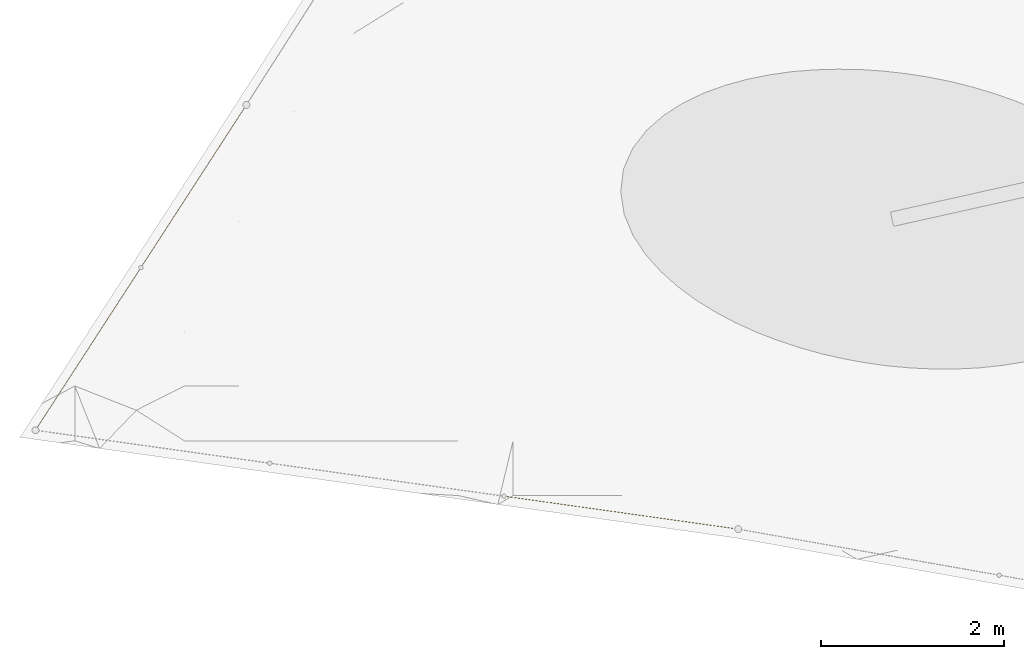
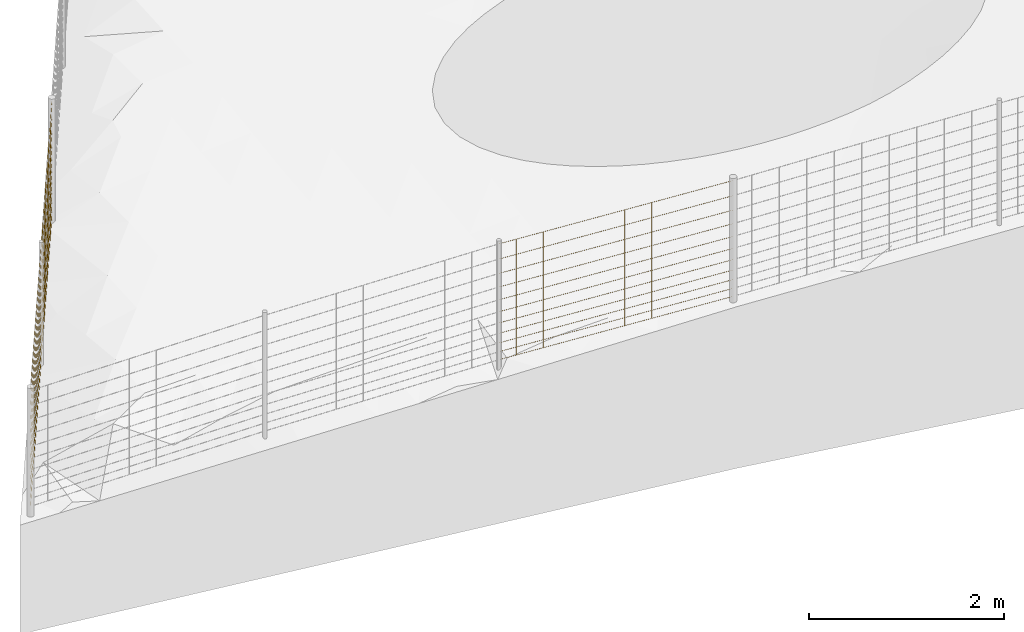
# Not in any storey, part 25 of 72: 3 railings.
"""IFC4 model written with IfcOpenShell, lengths in metres."""

from ifc_helpers import new_model, si_unit, direction, frame, origin_with_axes, place, context, subcontext, project, spatial, polygons, material, element, save


model = new_model("IFC4")

# Units and contexts
model_context = context("Model", 3, precision=1e-05, world=origin_with_axes(), true_north=direction((0.0, 1.0)))
body_context = subcontext(model_context, "Body", "Model", "MODEL_VIEW")
ifc_project = project(units=[si_unit("VOLUMEUNIT", "CUBIC_METRE"), si_unit("LENGTHUNIT", "METRE"), si_unit("AREAUNIT", "SQUARE_METRE")], contexts=[model_context])

# Site
site_placement = place(None, origin_with_axes())
site = spatial("IfcSite", under=ifc_project, at=site_placement, Name="Lares · Rua das Mercês · artigo 4771")

# Railings
ifc_material = material(Name="Aço galvanizado / Stahl verzinkt", Category="steel")
railing_1_placement = place(site_placement, frame((0.0, 0.0, 0.0), z_axis=(0.0, 0.0, 1.0), x_axis=(1.0, -1.03767253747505e-17, 0.0)))
element("IfcRailing", 1, at=railing_1_placement, inside=site, material=ifc_material, Name="Vedação · rede ovelheira 1.038", ObjectType="SHEEP_WIRE_FENCE", PredefinedType="USERDEFINED", context=body_context, shape_type="Tessellation", body=[
    polygons([(-4.2405248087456, 3.87456607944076, 11.0886268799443), (-4.24066841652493, 3.87307150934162, 11.0871283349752), (-4.24094284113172, 3.87159534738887, 11.0886268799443), (-4.24079923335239, 3.87308991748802, 11.0901254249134), (-6.80593960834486, 4.23556345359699, 10.9744345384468), (-6.80608321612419, 4.23406888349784, 10.9729359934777), (-6.80635764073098, 4.23259272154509, 10.9744345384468), (-6.80621403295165, 4.23408729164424, 10.9759330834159), (-4.2405248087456, 3.87456607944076, 11.1886268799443), (-4.24066841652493, 3.87307150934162, 11.1871283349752), (-4.24094284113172, 3.87159534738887, 11.1886268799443), (-4.24079923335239, 3.87308991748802, 11.1901254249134), (-6.80593960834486, 4.23556345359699, 11.0744345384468), (-6.80608321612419, 4.23406888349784, 11.0729359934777), (-6.80635764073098, 4.23259272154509, 11.0744345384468), (-6.80621403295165, 4.23408729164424, 11.0759330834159), (-4.2405248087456, 3.87456607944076, 11.2986268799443), (-4.24066841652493, 3.87307150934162, 11.2971283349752), (-4.24094284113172, 3.87159534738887, 11.2986268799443), (-4.24079923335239, 3.87308991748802, 11.3001254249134), (-6.80593960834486, 4.23556345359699, 11.1844345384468), (-6.80608321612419, 4.23406888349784, 11.1829359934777), (-6.80635764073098, 4.23259272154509, 11.1844345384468), (-6.80621403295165, 4.23408729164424, 11.1859330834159), (-4.2405248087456, 3.87456607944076, 11.4186268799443), (-4.24066841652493, 3.87307150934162, 11.4171283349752), (-4.24094284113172, 3.87159534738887, 11.4186268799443), (-4.24079923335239, 3.87308991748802, 11.4201254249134), (-6.80593960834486, 4.23556345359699, 11.3044345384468), (-6.80608321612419, 4.23406888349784, 11.3029359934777), (-6.80635764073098, 4.23259272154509, 11.3044345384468), (-6.80621403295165, 4.23408729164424, 11.3059330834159), (-4.2405248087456, 3.87456607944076, 11.5486268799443), (-4.24066841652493, 3.87307150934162, 11.5471283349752), (-4.24094284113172, 3.87159534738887, 11.5486268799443), (-4.24079923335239, 3.87308991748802, 11.5501254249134), (-6.80593960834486, 4.23556345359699, 11.4344345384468), (-6.80608321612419, 4.23406888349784, 11.4329359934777), (-6.80635764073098, 4.23259272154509, 11.4344345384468), (-6.80621403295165, 4.23408729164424, 11.4359330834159), (-4.2405248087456, 3.87456607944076, 11.6886268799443), (-4.24066841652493, 3.87307150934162, 11.6871283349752), (-4.24094284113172, 3.87159534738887, 11.6886268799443), (-4.24079923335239, 3.87308991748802, 11.6901254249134), (-6.80593960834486, 4.23556345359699, 11.5744345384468), (-6.80608321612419, 4.23406888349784, 11.5729359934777), (-6.80635764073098, 4.23259272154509, 11.5744345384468), (-6.80621403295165, 4.23408729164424, 11.5759330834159), (-4.2405248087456, 3.87456607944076, 11.8386268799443), (-4.24066841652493, 3.87307150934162, 11.8371283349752), (-4.24094284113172, 3.87159534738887, 11.8386268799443), (-4.24079923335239, 3.87308991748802, 11.8401254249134), (-6.80593960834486, 4.23556345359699, 11.7244345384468), (-6.80608321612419, 4.23406888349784, 11.7229359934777), (-6.80635764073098, 4.23259272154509, 11.7244345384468), (-6.80621403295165, 4.23408729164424, 11.7259330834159), (-4.2405248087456, 3.87456607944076, 11.9986268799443), (-4.24066841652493, 3.87307150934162, 11.9971283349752), (-4.24094284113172, 3.87159534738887, 11.9986268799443), (-4.24079923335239, 3.87308991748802, 12.0001254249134), (-6.80593960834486, 4.23556345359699, 11.8844345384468), (-6.80608321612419, 4.23406888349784, 11.8829359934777), (-6.80635764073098, 4.23259272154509, 11.8844345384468), (-6.80621403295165, 4.23408729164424, 11.8859330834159), (-4.2405248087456, 3.87456607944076, 12.1686268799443), (-4.24066841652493, 3.87307150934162, 12.1671283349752), (-4.24094284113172, 3.87159534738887, 12.1686268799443), (-4.24079923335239, 3.87308991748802, 12.1701254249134), (-6.80593960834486, 4.23556345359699, 12.0544345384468), (-6.80608321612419, 4.23406888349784, 12.0529359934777), (-6.80635764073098, 4.23259272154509, 12.0544345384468), (-6.80621403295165, 4.23408729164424, 12.0559330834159), (-4.2405248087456, 3.87456607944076, 12.3486268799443), (-4.24066841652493, 3.87307150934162, 12.3471283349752), (-4.24094284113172, 3.87159534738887, 12.3486268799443), (-4.24079923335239, 3.87308991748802, 12.3501254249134), (-6.80593960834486, 4.23556345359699, 12.2344345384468), (-6.80608321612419, 4.23406888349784, 12.2329359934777), (-6.80635764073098, 4.23259272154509, 12.2344345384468), (-6.80621403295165, 4.23408729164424, 12.2359330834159), (-4.2405248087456, 3.87456607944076, 12.5386268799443), (-4.24066841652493, 3.87307150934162, 12.5371283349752), (-4.24094284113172, 3.87159534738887, 12.5386268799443), (-4.24079923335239, 3.87308991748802, 12.5401254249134), (-6.80593960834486, 4.23556345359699, 12.4244345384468), (-6.80608321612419, 4.23406888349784, 12.4229359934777), (-6.80635764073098, 4.23259272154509, 12.4244345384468), (-6.80621403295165, 4.23408729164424, 12.4259330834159), (-4.53780703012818, 3.9163839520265, 11.0754034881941), (-4.53930703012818, 3.9148839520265, 11.0754034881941), (-4.53780703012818, 3.9133839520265, 11.0754034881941), (-4.53630703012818, 3.9148839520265, 11.0754034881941), (-4.53780703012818, 3.9163839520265, 12.5254034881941), (-4.53930703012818, 3.9148839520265, 12.5254034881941), (-4.53780703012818, 3.9133839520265, 12.5254034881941), (-4.53630703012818, 3.9148839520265, 12.5254034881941), (-4.8348802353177, 3.95818719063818, 11.062180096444), (-4.8363802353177, 3.95668719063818, 11.062180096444), (-4.8348802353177, 3.95518719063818, 11.062180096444), (-4.8333802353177, 3.95668719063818, 11.062180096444), (-4.8348802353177, 3.95818719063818, 12.512180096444), (-4.8363802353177, 3.95668719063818, 12.512180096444), (-4.8348802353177, 3.95518719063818, 12.512180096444), (-4.8333802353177, 3.95668719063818, 12.512180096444), (-5.13195344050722, 3.99999042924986, 11.0489567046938), (-5.13345344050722, 3.99849042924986, 11.0489567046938), (-5.13195344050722, 3.99699042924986, 11.0489567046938), (-5.13045344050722, 3.99849042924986, 11.0489567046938), (-5.13195344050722, 3.99999042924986, 12.4989567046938), (-5.13345344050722, 3.99849042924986, 12.4989567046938), (-5.13195344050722, 3.99699042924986, 12.4989567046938), (-5.13045344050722, 3.99849042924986, 12.4989567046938), (-5.42902664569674, 4.04179366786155, 11.0357333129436), (-5.43052664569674, 4.04029366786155, 11.0357333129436), (-5.42902664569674, 4.03879366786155, 11.0357333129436), (-5.42752664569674, 4.04029366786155, 11.0357333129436), (-5.42902664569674, 4.04179366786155, 12.4857333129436), (-5.43052664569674, 4.04029366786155, 12.4857333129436), (-5.42902664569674, 4.03879366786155, 12.4857333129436), (-5.42752664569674, 4.04029366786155, 12.4857333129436), (-5.72609985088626, 4.08359690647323, 11.0225099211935), (-5.72759985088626, 4.08209690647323, 11.0225099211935), (-5.72609985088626, 4.08059690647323, 11.0225099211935), (-5.72459985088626, 4.08209690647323, 11.0225099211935), (-5.72609985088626, 4.08359690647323, 12.4725099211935), (-5.72759985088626, 4.08209690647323, 12.4725099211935), (-5.72609985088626, 4.08059690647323, 12.4725099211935), (-5.72459985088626, 4.08209690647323, 12.4725099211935), (-6.02317305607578, 4.12540014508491, 11.0092865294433), (-6.02467305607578, 4.12390014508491, 11.0092865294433), (-6.02317305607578, 4.12240014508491, 11.0092865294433), (-6.02167305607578, 4.12390014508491, 11.0092865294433), (-6.02317305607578, 4.12540014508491, 12.4592865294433), (-6.02467305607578, 4.12390014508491, 12.4592865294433), (-6.02317305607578, 4.12240014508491, 12.4592865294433), (-6.02167305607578, 4.12390014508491, 12.4592865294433), (-6.3202462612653, 4.16720338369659, 10.9960631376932), (-6.3217462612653, 4.16570338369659, 10.9960631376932), (-6.3202462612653, 4.16420338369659, 10.9960631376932), (-6.3187462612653, 4.16570338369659, 10.9960631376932), (-6.3202462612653, 4.16720338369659, 12.4460631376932), (-6.3217462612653, 4.16570338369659, 12.4460631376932), (-6.3202462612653, 4.16420338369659, 12.4460631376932), (-6.3187462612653, 4.16570338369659, 12.4460631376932), (-6.61731946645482, 4.20900662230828, 10.982839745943), (-6.61881946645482, 4.20750662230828, 10.982839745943), (-6.61731946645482, 4.20600662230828, 10.982839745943), (-6.61581946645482, 4.20750662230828, 10.982839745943), (-6.61731946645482, 4.20900662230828, 12.432839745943), (-6.61881946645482, 4.20750662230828, 12.432839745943), (-6.61731946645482, 4.20600662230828, 12.432839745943), (-6.61581946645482, 4.20750662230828, 12.432839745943)], [[[4, 3, 2, 1]], [[5, 6, 7, 8]], [[1, 2, 6, 5]], [[2, 3, 7, 6]], [[3, 4, 8, 7]], [[4, 1, 5, 8]], [[12, 11, 10, 9]], [[13, 14, 15, 16]], [[9, 10, 14, 13]], [[10, 11, 15, 14]], [[11, 12, 16, 15]], [[12, 9, 13, 16]], [[20, 19, 18, 17]], [[21, 22, 23, 24]], [[17, 18, 22, 21]], [[18, 19, 23, 22]], [[19, 20, 24, 23]], [[20, 17, 21, 24]], [[28, 27, 26, 25]], [[29, 30, 31, 32]], [[25, 26, 30, 29]], [[26, 27, 31, 30]], [[27, 28, 32, 31]], [[28, 25, 29, 32]], [[36, 35, 34, 33]], [[37, 38, 39, 40]], [[33, 34, 38, 37]], [[34, 35, 39, 38]], [[35, 36, 40, 39]], [[36, 33, 37, 40]], [[44, 43, 42, 41]], [[45, 46, 47, 48]], [[41, 42, 46, 45]], [[42, 43, 47, 46]], [[43, 44, 48, 47]], [[44, 41, 45, 48]], [[52, 51, 50, 49]], [[53, 54, 55, 56]], [[49, 50, 54, 53]], [[50, 51, 55, 54]], [[51, 52, 56, 55]], [[52, 49, 53, 56]], [[60, 59, 58, 57]], [[61, 62, 63, 64]], [[57, 58, 62, 61]], [[58, 59, 63, 62]], [[59, 60, 64, 63]], [[60, 57, 61, 64]], [[68, 67, 66, 65]], [[69, 70, 71, 72]], [[65, 66, 70, 69]], [[66, 67, 71, 70]], [[67, 68, 72, 71]], [[68, 65, 69, 72]], [[76, 75, 74, 73]], [[77, 78, 79, 80]], [[73, 74, 78, 77]], [[74, 75, 79, 78]], [[75, 76, 80, 79]], [[76, 73, 77, 80]], [[84, 83, 82, 81]], [[85, 86, 87, 88]], [[81, 82, 86, 85]], [[82, 83, 87, 86]], [[83, 84, 88, 87]], [[84, 81, 85, 88]], [[92, 91, 90, 89]], [[93, 94, 95, 96]], [[89, 90, 94, 93]], [[90, 91, 95, 94]], [[91, 92, 96, 95]], [[92, 89, 93, 96]], [[100, 99, 98, 97]], [[101, 102, 103, 104]], [[97, 98, 102, 101]], [[98, 99, 103, 102]], [[99, 100, 104, 103]], [[100, 97, 101, 104]], [[108, 107, 106, 105]], [[109, 110, 111, 112]], [[105, 106, 110, 109]], [[106, 107, 111, 110]], [[107, 108, 112, 111]], [[108, 105, 109, 112]], [[116, 115, 114, 113]], [[117, 118, 119, 120]], [[113, 114, 118, 117]], [[114, 115, 119, 118]], [[115, 116, 120, 119]], [[116, 113, 117, 120]], [[124, 123, 122, 121]], [[125, 126, 127, 128]], [[121, 122, 126, 125]], [[122, 123, 127, 126]], [[123, 124, 128, 127]], [[124, 121, 125, 128]], [[132, 131, 130, 129]], [[133, 134, 135, 136]], [[129, 130, 134, 133]], [[130, 131, 135, 134]], [[131, 132, 136, 135]], [[132, 129, 133, 136]], [[140, 139, 138, 137]], [[141, 142, 143, 144]], [[137, 138, 142, 141]], [[138, 139, 143, 142]], [[139, 140, 144, 143]], [[140, 137, 141, 144]], [[148, 147, 146, 145]], [[149, 150, 151, 152]], [[145, 146, 150, 149]], [[146, 147, 151, 150]], [[147, 148, 152, 151]], [[148, 145, 149, 152]]]),
])
railing_2_placement = place(site_placement, frame((0.0, 0.0, 0.0), z_axis=(0.0, 0.0, 1.0), x_axis=(1.0, -1.03767253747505e-17, 0.0)))
element("IfcRailing", 2, at=railing_2_placement, inside=site, material=ifc_material, Name="Vedação · rede ovelheira 1.041", ObjectType="SHEEP_WIRE_FENCE", PredefinedType="USERDEFINED", context=body_context, shape_type="Tessellation", body=[
    polygons([(-11.9357196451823, 4.95525675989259, 10.4965606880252), (-11.9368512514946, 4.95626865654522, 10.4950789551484), (-11.9382368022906, 4.95688891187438, 10.4965606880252), (-11.9371051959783, 4.95587701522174, 10.498042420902), (-10.7807430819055, 6.73649864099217, 10.8309353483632), (-10.7818746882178, 6.73751053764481, 10.8294536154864), (-10.7832602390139, 6.73813079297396, 10.8309353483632), (-10.7821286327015, 6.73711889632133, 10.83241708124), (-11.9357196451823, 4.95525675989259, 10.5965606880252), (-11.9368512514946, 4.95626865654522, 10.5950789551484), (-11.9382368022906, 4.95688891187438, 10.5965606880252), (-11.9371051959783, 4.95587701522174, 10.598042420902), (-10.7807430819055, 6.73649864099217, 10.9309353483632), (-10.7818746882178, 6.73751053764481, 10.9294536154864), (-10.7832602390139, 6.73813079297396, 10.9309353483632), (-10.7821286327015, 6.73711889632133, 10.93241708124), (-11.9357196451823, 4.95525675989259, 10.7065606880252), (-11.9368512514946, 4.95626865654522, 10.7050789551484), (-11.9382368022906, 4.95688891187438, 10.7065606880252), (-11.9371051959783, 4.95587701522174, 10.708042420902), (-10.7807430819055, 6.73649864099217, 11.0409353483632), (-10.7818746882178, 6.73751053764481, 11.0394536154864), (-10.7832602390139, 6.73813079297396, 11.0409353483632), (-10.7821286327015, 6.73711889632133, 11.04241708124), (-11.9357196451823, 4.95525675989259, 10.8265606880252), (-11.9368512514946, 4.95626865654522, 10.8250789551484), (-11.9382368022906, 4.95688891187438, 10.8265606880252), (-11.9371051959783, 4.95587701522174, 10.828042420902), (-10.7807430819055, 6.73649864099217, 11.1609353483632), (-10.7818746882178, 6.73751053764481, 11.1594536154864), (-10.7832602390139, 6.73813079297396, 11.1609353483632), (-10.7821286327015, 6.73711889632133, 11.16241708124), (-11.9357196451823, 4.95525675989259, 10.9565606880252), (-11.9368512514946, 4.95626865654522, 10.9550789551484), (-11.9382368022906, 4.95688891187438, 10.9565606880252), (-11.9371051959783, 4.95587701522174, 10.958042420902), (-10.7807430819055, 6.73649864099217, 11.2909353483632), (-10.7818746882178, 6.73751053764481, 11.2894536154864), (-10.7832602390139, 6.73813079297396, 11.2909353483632), (-10.7821286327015, 6.73711889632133, 11.29241708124), (-11.9357196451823, 4.95525675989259, 11.0965606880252), (-11.9368512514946, 4.95626865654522, 11.0950789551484), (-11.9382368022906, 4.95688891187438, 11.0965606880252), (-11.9371051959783, 4.95587701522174, 11.098042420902), (-10.7807430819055, 6.73649864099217, 11.4309353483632), (-10.7818746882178, 6.73751053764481, 11.4294536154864), (-10.7832602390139, 6.73813079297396, 11.4309353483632), (-10.7821286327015, 6.73711889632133, 11.43241708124), (-11.9357196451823, 4.95525675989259, 11.2465606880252), (-11.9368512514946, 4.95626865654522, 11.2450789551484), (-11.9382368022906, 4.95688891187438, 11.2465606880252), (-11.9371051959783, 4.95587701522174, 11.248042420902), (-10.7807430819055, 6.73649864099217, 11.5809353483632), (-10.7818746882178, 6.73751053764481, 11.5794536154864), (-10.7832602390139, 6.73813079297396, 11.5809353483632), (-10.7821286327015, 6.73711889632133, 11.58241708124), (-11.9357196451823, 4.95525675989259, 11.4065606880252), (-11.9368512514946, 4.95626865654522, 11.4050789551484), (-11.9382368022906, 4.95688891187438, 11.4065606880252), (-11.9371051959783, 4.95587701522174, 11.408042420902), (-10.7807430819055, 6.73649864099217, 11.7409353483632), (-10.7818746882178, 6.73751053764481, 11.7394536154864), (-10.7832602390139, 6.73813079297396, 11.7409353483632), (-10.7821286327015, 6.73711889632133, 11.74241708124), (-11.9357196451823, 4.95525675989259, 11.5765606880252), (-11.9368512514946, 4.95626865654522, 11.5750789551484), (-11.9382368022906, 4.95688891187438, 11.5765606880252), (-11.9371051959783, 4.95587701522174, 11.578042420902), (-10.7807430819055, 6.73649864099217, 11.9109353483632), (-10.7818746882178, 6.73751053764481, 11.9094536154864), (-10.7832602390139, 6.73813079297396, 11.9109353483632), (-10.7821286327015, 6.73711889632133, 11.91241708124), (-11.9357196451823, 4.95525675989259, 11.7565606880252), (-11.9368512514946, 4.95626865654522, 11.7550789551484), (-11.9382368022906, 4.95688891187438, 11.7565606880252), (-11.9371051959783, 4.95587701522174, 11.758042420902), (-10.7807430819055, 6.73649864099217, 12.0909353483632), (-10.7818746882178, 6.73751053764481, 12.0894536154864), (-10.7832602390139, 6.73813079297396, 12.0909353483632), (-10.7821286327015, 6.73711889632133, 12.09241708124), (-11.9357196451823, 4.95525675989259, 11.9465606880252), (-11.9368512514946, 4.95626865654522, 11.9450789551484), (-11.9382368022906, 4.95688891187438, 11.9465606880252), (-11.9371051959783, 4.95587701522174, 11.948042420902), (-10.7807430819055, 6.73649864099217, 12.2809353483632), (-10.7818746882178, 6.73751053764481, 12.2794536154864), (-10.7832602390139, 6.73813079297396, 12.2809353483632), (-10.7821286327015, 6.73711889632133, 12.28241708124), (-11.7737630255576, 5.20928854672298, 10.5438127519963), (-11.7752630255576, 5.20778854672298, 10.5438127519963), (-11.7737630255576, 5.20628854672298, 10.5438127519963), (-11.7722630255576, 5.20778854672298, 10.5438127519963), (-11.7737630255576, 5.20928854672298, 11.9938127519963), (-11.7752630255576, 5.20778854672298, 11.9938127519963), (-11.7737630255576, 5.20628854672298, 11.9938127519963), (-11.7722630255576, 5.20778854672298, 11.9938127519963), (-11.6105478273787, 5.46100425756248, 10.5910648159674), (-11.6120478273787, 5.45950425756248, 10.5910648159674), (-11.6105478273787, 5.45800425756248, 10.5910648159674), (-11.6090478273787, 5.45950425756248, 10.5910648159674), (-11.6105478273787, 5.46100425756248, 12.0410648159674), (-11.6120478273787, 5.45950425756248, 12.0410648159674), (-11.6105478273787, 5.45800425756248, 12.0410648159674), (-11.6090478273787, 5.45950425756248, 12.0410648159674), (-11.4473326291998, 5.71271996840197, 10.6383168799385), (-11.4488326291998, 5.71121996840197, 10.6383168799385), (-11.4473326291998, 5.70971996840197, 10.6383168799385), (-11.4458326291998, 5.71121996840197, 10.6383168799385), (-11.4473326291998, 5.71271996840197, 12.0883168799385), (-11.4488326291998, 5.71121996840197, 12.0883168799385), (-11.4473326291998, 5.70971996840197, 12.0883168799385), (-11.4458326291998, 5.71121996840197, 12.0883168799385), (-11.284117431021, 5.96443567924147, 10.6855689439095), (-11.285617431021, 5.96293567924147, 10.6855689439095), (-11.284117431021, 5.96143567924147, 10.6855689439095), (-11.282617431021, 5.96293567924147, 10.6855689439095), (-11.284117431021, 5.96443567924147, 12.1355689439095), (-11.285617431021, 5.96293567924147, 12.1355689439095), (-11.284117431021, 5.96143567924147, 12.1355689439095), (-11.282617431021, 5.96293567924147, 12.1355689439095), (-11.1209022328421, 6.21615139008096, 10.7328210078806), (-11.1224022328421, 6.21465139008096, 10.7328210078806), (-11.1209022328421, 6.21315139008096, 10.7328210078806), (-11.1194022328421, 6.21465139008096, 10.7328210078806), (-11.1209022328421, 6.21615139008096, 12.1828210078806), (-11.1224022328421, 6.21465139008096, 12.1828210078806), (-11.1209022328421, 6.21315139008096, 12.1828210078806), (-11.1194022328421, 6.21465139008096, 12.1828210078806), (-10.9576870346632, 6.46786710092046, 10.7800730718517), (-10.9591870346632, 6.46636710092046, 10.7800730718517), (-10.9576870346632, 6.46486710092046, 10.7800730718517), (-10.9561870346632, 6.46636710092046, 10.7800730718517), (-10.9576870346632, 6.46786710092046, 12.2300730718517), (-10.9591870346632, 6.46636710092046, 12.2300730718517), (-10.9576870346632, 6.46486710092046, 12.2300730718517), (-10.9561870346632, 6.46636710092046, 12.2300730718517)], [[[4, 3, 2, 1]], [[5, 6, 7, 8]], [[1, 2, 6, 5]], [[2, 3, 7, 6]], [[3, 4, 8, 7]], [[4, 1, 5, 8]], [[12, 11, 10, 9]], [[13, 14, 15, 16]], [[9, 10, 14, 13]], [[10, 11, 15, 14]], [[11, 12, 16, 15]], [[12, 9, 13, 16]], [[20, 19, 18, 17]], [[21, 22, 23, 24]], [[17, 18, 22, 21]], [[18, 19, 23, 22]], [[19, 20, 24, 23]], [[20, 17, 21, 24]], [[28, 27, 26, 25]], [[29, 30, 31, 32]], [[25, 26, 30, 29]], [[26, 27, 31, 30]], [[27, 28, 32, 31]], [[28, 25, 29, 32]], [[36, 35, 34, 33]], [[37, 38, 39, 40]], [[33, 34, 38, 37]], [[34, 35, 39, 38]], [[35, 36, 40, 39]], [[36, 33, 37, 40]], [[44, 43, 42, 41]], [[45, 46, 47, 48]], [[41, 42, 46, 45]], [[42, 43, 47, 46]], [[43, 44, 48, 47]], [[44, 41, 45, 48]], [[52, 51, 50, 49]], [[53, 54, 55, 56]], [[49, 50, 54, 53]], [[50, 51, 55, 54]], [[51, 52, 56, 55]], [[52, 49, 53, 56]], [[60, 59, 58, 57]], [[61, 62, 63, 64]], [[57, 58, 62, 61]], [[58, 59, 63, 62]], [[59, 60, 64, 63]], [[60, 57, 61, 64]], [[68, 67, 66, 65]], [[69, 70, 71, 72]], [[65, 66, 70, 69]], [[66, 67, 71, 70]], [[67, 68, 72, 71]], [[68, 65, 69, 72]], [[76, 75, 74, 73]], [[77, 78, 79, 80]], [[73, 74, 78, 77]], [[74, 75, 79, 78]], [[75, 76, 80, 79]], [[76, 73, 77, 80]], [[84, 83, 82, 81]], [[85, 86, 87, 88]], [[81, 82, 86, 85]], [[82, 83, 87, 86]], [[83, 84, 88, 87]], [[84, 81, 85, 88]], [[92, 91, 90, 89]], [[93, 94, 95, 96]], [[89, 90, 94, 93]], [[90, 91, 95, 94]], [[91, 92, 96, 95]], [[92, 89, 93, 96]], [[100, 99, 98, 97]], [[101, 102, 103, 104]], [[97, 98, 102, 101]], [[98, 99, 103, 102]], [[99, 100, 104, 103]], [[100, 97, 101, 104]], [[108, 107, 106, 105]], [[109, 110, 111, 112]], [[105, 106, 110, 109]], [[106, 107, 111, 110]], [[107, 108, 112, 111]], [[108, 105, 109, 112]], [[116, 115, 114, 113]], [[117, 118, 119, 120]], [[113, 114, 118, 117]], [[114, 115, 119, 118]], [[115, 116, 120, 119]], [[116, 113, 117, 120]], [[124, 123, 122, 121]], [[125, 126, 127, 128]], [[121, 122, 126, 125]], [[122, 123, 127, 126]], [[123, 124, 128, 127]], [[124, 121, 125, 128]], [[132, 131, 130, 129]], [[133, 134, 135, 136]], [[129, 130, 134, 133]], [[130, 131, 135, 134]], [[131, 132, 136, 135]], [[132, 129, 133, 136]]]),
])
railing_3_placement = place(site_placement, frame((0.0, 0.0, 0.0), z_axis=(0.0, 0.0, 1.0), x_axis=(1.0, -1.03767253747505e-17, 0.0)))
element("IfcRailing", 3, at=railing_3_placement, inside=site, material=ifc_material, Name="Vedação · rede ovelheira 1.042", ObjectType="SHEEP_WIRE_FENCE", PredefinedType="USERDEFINED", context=body_context, shape_type="Tessellation", body=[
    polygons([(-10.7807430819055, 6.73649864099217, 10.8309353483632), (-10.781880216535, 6.73750201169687, 10.8294520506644), (-10.7832602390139, 6.73813079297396, 10.8309353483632), (-10.7821231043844, 6.73712742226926, 10.832418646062), (-9.62576651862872, 8.51774052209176, 11.1504140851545), (-9.62690365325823, 8.51874389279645, 11.1489307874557), (-9.62828367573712, 8.51937267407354, 11.1504140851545), (-9.62714654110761, 8.51836930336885, 11.1518973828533), (-10.7807430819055, 6.73649864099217, 10.9309353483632), (-10.781880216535, 6.73750201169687, 10.9294520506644), (-10.7832602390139, 6.73813079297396, 10.9309353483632), (-10.7821231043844, 6.73712742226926, 10.932418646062), (-9.62576651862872, 8.51774052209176, 11.2504140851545), (-9.62690365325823, 8.51874389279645, 11.2489307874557), (-9.62828367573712, 8.51937267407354, 11.2504140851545), (-9.62714654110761, 8.51836930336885, 11.2518973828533), (-10.7807430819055, 6.73649864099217, 11.0409353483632), (-10.781880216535, 6.73750201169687, 11.0394520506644), (-10.7832602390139, 6.73813079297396, 11.0409353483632), (-10.7821231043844, 6.73712742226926, 11.042418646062), (-9.62576651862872, 8.51774052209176, 11.3604140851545), (-9.62690365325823, 8.51874389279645, 11.3589307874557), (-9.62828367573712, 8.51937267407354, 11.3604140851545), (-9.62714654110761, 8.51836930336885, 11.3618973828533), (-10.7807430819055, 6.73649864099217, 11.1609353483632), (-10.781880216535, 6.73750201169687, 11.1594520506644), (-10.7832602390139, 6.73813079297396, 11.1609353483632), (-10.7821231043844, 6.73712742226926, 11.162418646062), (-9.62576651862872, 8.51774052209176, 11.4804140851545), (-9.62690365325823, 8.51874389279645, 11.4789307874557), (-9.62828367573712, 8.51937267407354, 11.4804140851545), (-9.62714654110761, 8.51836930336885, 11.4818973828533), (-10.7807430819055, 6.73649864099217, 11.2909353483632), (-10.781880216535, 6.73750201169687, 11.2894520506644), (-10.7832602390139, 6.73813079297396, 11.2909353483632), (-10.7821231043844, 6.73712742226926, 11.292418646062), (-9.62576651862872, 8.51774052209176, 11.6104140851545), (-9.62690365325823, 8.51874389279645, 11.6089307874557), (-9.62828367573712, 8.51937267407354, 11.6104140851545), (-9.62714654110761, 8.51836930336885, 11.6118973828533), (-10.7807430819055, 6.73649864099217, 11.4309353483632), (-10.781880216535, 6.73750201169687, 11.4294520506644), (-10.7832602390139, 6.73813079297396, 11.4309353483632), (-10.7821231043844, 6.73712742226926, 11.432418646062), (-9.62576651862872, 8.51774052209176, 11.7504140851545), (-9.62690365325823, 8.51874389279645, 11.7489307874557), (-9.62828367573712, 8.51937267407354, 11.7504140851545), (-9.62714654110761, 8.51836930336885, 11.7518973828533), (-10.7807430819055, 6.73649864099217, 11.5809353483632), (-10.781880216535, 6.73750201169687, 11.5794520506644), (-10.7832602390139, 6.73813079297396, 11.5809353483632), (-10.7821231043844, 6.73712742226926, 11.582418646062), (-9.62576651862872, 8.51774052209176, 11.9004140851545), (-9.62690365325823, 8.51874389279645, 11.8989307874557), (-9.62828367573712, 8.51937267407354, 11.9004140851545), (-9.62714654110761, 8.51836930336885, 11.9018973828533), (-10.7807430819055, 6.73649864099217, 11.7409353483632), (-10.781880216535, 6.73750201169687, 11.7394520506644), (-10.7832602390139, 6.73813079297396, 11.7409353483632), (-10.7821231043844, 6.73712742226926, 11.742418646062), (-9.62576651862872, 8.51774052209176, 12.0604140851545), (-9.62690365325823, 8.51874389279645, 12.0589307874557), (-9.62828367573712, 8.51937267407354, 12.0604140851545), (-9.62714654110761, 8.51836930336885, 12.0618973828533), (-10.7807430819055, 6.73649864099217, 11.9109353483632), (-10.781880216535, 6.73750201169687, 11.9094520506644), (-10.7832602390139, 6.73813079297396, 11.9109353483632), (-10.7821231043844, 6.73712742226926, 11.912418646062), (-9.62576651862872, 8.51774052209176, 12.2304140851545), (-9.62690365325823, 8.51874389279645, 12.2289307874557), (-9.62828367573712, 8.51937267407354, 12.2304140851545), (-9.62714654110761, 8.51836930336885, 12.2318973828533), (-10.7807430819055, 6.73649864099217, 12.0909353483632), (-10.781880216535, 6.73750201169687, 12.0894520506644), (-10.7832602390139, 6.73813079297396, 12.0909353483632), (-10.7821231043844, 6.73712742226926, 12.092418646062), (-9.62576651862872, 8.51774052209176, 12.4104140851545), (-9.62690365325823, 8.51874389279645, 12.4089307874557), (-9.62828367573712, 8.51937267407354, 12.4104140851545), (-9.62714654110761, 8.51836930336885, 12.4118973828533), (-10.7807430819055, 6.73649864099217, 12.2809353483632), (-10.781880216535, 6.73750201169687, 12.2794520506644), (-10.7832602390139, 6.73813079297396, 12.2809353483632), (-10.7821231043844, 6.73712742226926, 12.282418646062), (-9.62576651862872, 8.51774052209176, 12.6004140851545), (-9.62690365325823, 8.51874389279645, 12.5989307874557), (-9.62828367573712, 8.51937267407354, 12.6004140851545), (-9.62714654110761, 8.51836930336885, 12.6018973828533), (-10.6187864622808, 6.99053042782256, 10.8760823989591), (-10.6202864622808, 6.98903042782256, 10.8760823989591), (-10.6187864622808, 6.98753042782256, 10.8760823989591), (-10.6172864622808, 6.98903042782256, 10.8760823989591), (-10.6187864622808, 6.99053042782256, 12.3260823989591), (-10.6202864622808, 6.98903042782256, 12.3260823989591), (-10.6187864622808, 6.98753042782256, 12.3260823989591), (-10.6172864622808, 6.98903042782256, 12.3260823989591), (-10.4555712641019, 7.24224613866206, 10.921229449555), (-10.4570712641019, 7.24074613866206, 10.921229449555), (-10.4555712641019, 7.23924613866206, 10.921229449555), (-10.4540712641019, 7.24074613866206, 10.921229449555), (-10.4555712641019, 7.24224613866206, 12.371229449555), (-10.4570712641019, 7.24074613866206, 12.371229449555), (-10.4555712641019, 7.23924613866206, 12.371229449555), (-10.4540712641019, 7.24074613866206, 12.371229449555), (-10.2923560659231, 7.49396184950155, 10.9663765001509), (-10.2938560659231, 7.49246184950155, 10.9663765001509), (-10.2923560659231, 7.49096184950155, 10.9663765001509), (-10.2908560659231, 7.49246184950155, 10.9663765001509), (-10.2923560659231, 7.49396184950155, 12.4163765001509), (-10.2938560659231, 7.49246184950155, 12.4163765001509), (-10.2923560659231, 7.49096184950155, 12.4163765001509), (-10.2908560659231, 7.49246184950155, 12.4163765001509), (-10.1291408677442, 7.74567756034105, 11.0115235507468), (-10.1306408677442, 7.74417756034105, 11.0115235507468), (-10.1291408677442, 7.74267756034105, 11.0115235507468), (-10.1276408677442, 7.74417756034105, 11.0115235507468), (-10.1291408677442, 7.74567756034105, 12.4615235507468), (-10.1306408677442, 7.74417756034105, 12.4615235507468), (-10.1291408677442, 7.74267756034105, 12.4615235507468), (-10.1276408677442, 7.74417756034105, 12.4615235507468), (-9.96592566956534, 7.99739327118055, 11.0566706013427), (-9.96742566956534, 7.99589327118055, 11.0566706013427), (-9.96592566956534, 7.99439327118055, 11.0566706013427), (-9.96442566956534, 7.99589327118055, 11.0566706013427), (-9.96592566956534, 7.99739327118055, 12.5066706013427), (-9.96742566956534, 7.99589327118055, 12.5066706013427), (-9.96592566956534, 7.99439327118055, 12.5066706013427), (-9.96442566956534, 7.99589327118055, 12.5066706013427), (-9.80271047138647, 8.24910898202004, 11.1018176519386), (-9.80421047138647, 8.24760898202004, 11.1018176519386), (-9.80271047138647, 8.24610898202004, 11.1018176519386), (-9.80121047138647, 8.24760898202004, 11.1018176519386), (-9.80271047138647, 8.24910898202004, 12.5518176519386), (-9.80421047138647, 8.24760898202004, 12.5518176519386), (-9.80271047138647, 8.24610898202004, 12.5518176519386), (-9.80121047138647, 8.24760898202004, 12.5518176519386)], [[[4, 3, 2, 1]], [[5, 6, 7, 8]], [[1, 2, 6, 5]], [[2, 3, 7, 6]], [[3, 4, 8, 7]], [[4, 1, 5, 8]], [[12, 11, 10, 9]], [[13, 14, 15, 16]], [[9, 10, 14, 13]], [[10, 11, 15, 14]], [[11, 12, 16, 15]], [[12, 9, 13, 16]], [[20, 19, 18, 17]], [[21, 22, 23, 24]], [[17, 18, 22, 21]], [[18, 19, 23, 22]], [[19, 20, 24, 23]], [[20, 17, 21, 24]], [[28, 27, 26, 25]], [[29, 30, 31, 32]], [[25, 26, 30, 29]], [[26, 27, 31, 30]], [[27, 28, 32, 31]], [[28, 25, 29, 32]], [[36, 35, 34, 33]], [[37, 38, 39, 40]], [[33, 34, 38, 37]], [[34, 35, 39, 38]], [[35, 36, 40, 39]], [[36, 33, 37, 40]], [[44, 43, 42, 41]], [[45, 46, 47, 48]], [[41, 42, 46, 45]], [[42, 43, 47, 46]], [[43, 44, 48, 47]], [[44, 41, 45, 48]], [[52, 51, 50, 49]], [[53, 54, 55, 56]], [[49, 50, 54, 53]], [[50, 51, 55, 54]], [[51, 52, 56, 55]], [[52, 49, 53, 56]], [[60, 59, 58, 57]], [[61, 62, 63, 64]], [[57, 58, 62, 61]], [[58, 59, 63, 62]], [[59, 60, 64, 63]], [[60, 57, 61, 64]], [[68, 67, 66, 65]], [[69, 70, 71, 72]], [[65, 66, 70, 69]], [[66, 67, 71, 70]], [[67, 68, 72, 71]], [[68, 65, 69, 72]], [[76, 75, 74, 73]], [[77, 78, 79, 80]], [[73, 74, 78, 77]], [[74, 75, 79, 78]], [[75, 76, 80, 79]], [[76, 73, 77, 80]], [[84, 83, 82, 81]], [[85, 86, 87, 88]], [[81, 82, 86, 85]], [[82, 83, 87, 86]], [[83, 84, 88, 87]], [[84, 81, 85, 88]], [[92, 91, 90, 89]], [[93, 94, 95, 96]], [[89, 90, 94, 93]], [[90, 91, 95, 94]], [[91, 92, 96, 95]], [[92, 89, 93, 96]], [[100, 99, 98, 97]], [[101, 102, 103, 104]], [[97, 98, 102, 101]], [[98, 99, 103, 102]], [[99, 100, 104, 103]], [[100, 97, 101, 104]], [[108, 107, 106, 105]], [[109, 110, 111, 112]], [[105, 106, 110, 109]], [[106, 107, 111, 110]], [[107, 108, 112, 111]], [[108, 105, 109, 112]], [[116, 115, 114, 113]], [[117, 118, 119, 120]], [[113, 114, 118, 117]], [[114, 115, 119, 118]], [[115, 116, 120, 119]], [[116, 113, 117, 120]], [[124, 123, 122, 121]], [[125, 126, 127, 128]], [[121, 122, 126, 125]], [[122, 123, 127, 126]], [[123, 124, 128, 127]], [[124, 121, 125, 128]], [[132, 131, 130, 129]], [[133, 134, 135, 136]], [[129, 130, 134, 133]], [[130, 131, 135, 134]], [[131, 132, 136, 135]], [[132, 129, 133, 136]]]),
])

save(model, "model.ifc")
